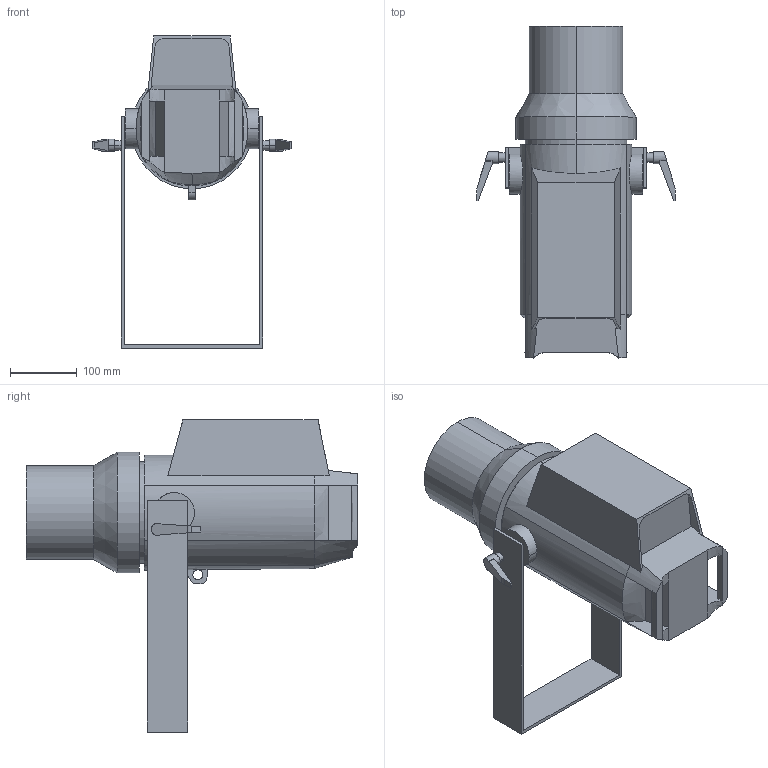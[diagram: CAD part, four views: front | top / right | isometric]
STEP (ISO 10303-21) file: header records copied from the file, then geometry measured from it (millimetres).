
FILE_DESCRIPTION((''),'2;1');
FILE_NAME('000_ASM','2026-04-16T15:29:25',('006374'),(''),'CREO PARAMETRIC BY PTC INC, 2018050','CREO PARAMETRIC BY PTC INC, 2018050','');
FILE_SCHEMA(('CONFIG_CONTROL_DESIGN'));
Length unit declared in the file: millimetre
Products named in the file (4): 00; 000; 32000539A-0001; 000_ASM
Assembly tree (4 placements, depth 2):
  000_ASM
    00
    000
    32000539A-0001  x2
Bounding box: 297.36 x 496.13 x 466.49 mm (x, y, z)
Volume: 11912495 mm3; surface area: 488547.2 mm2
Topology: 4 solids, 6 shells, 134 faces, 330 edges, 210 vertices
Faces by surface type: plane 69, cylinder 40, bspline 18, extrusion 5, cone 2
Entity records: 4493 total; most frequent: CARTESIAN_POINT 1847, ORIENTED_EDGE 564, DIRECTION 454, EDGE_CURVE 282, VERTEX_POINT 178, VECTOR 156, LINE 151, AXIS2_PLACEMENT_3D 149
